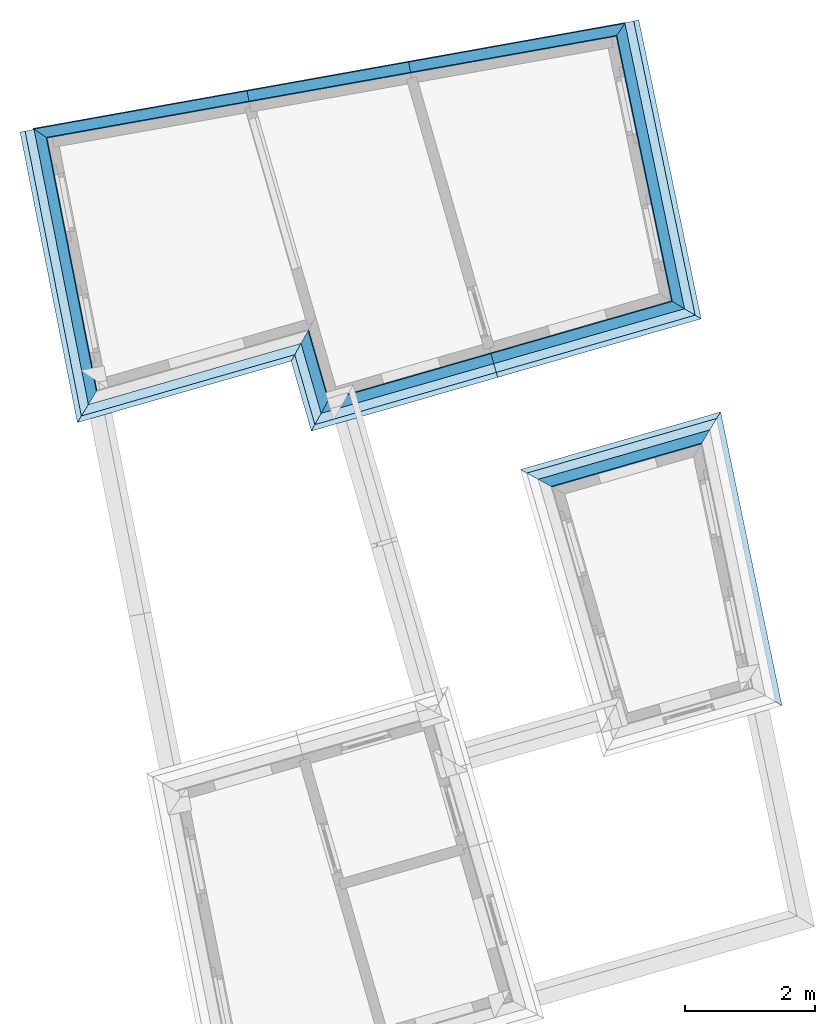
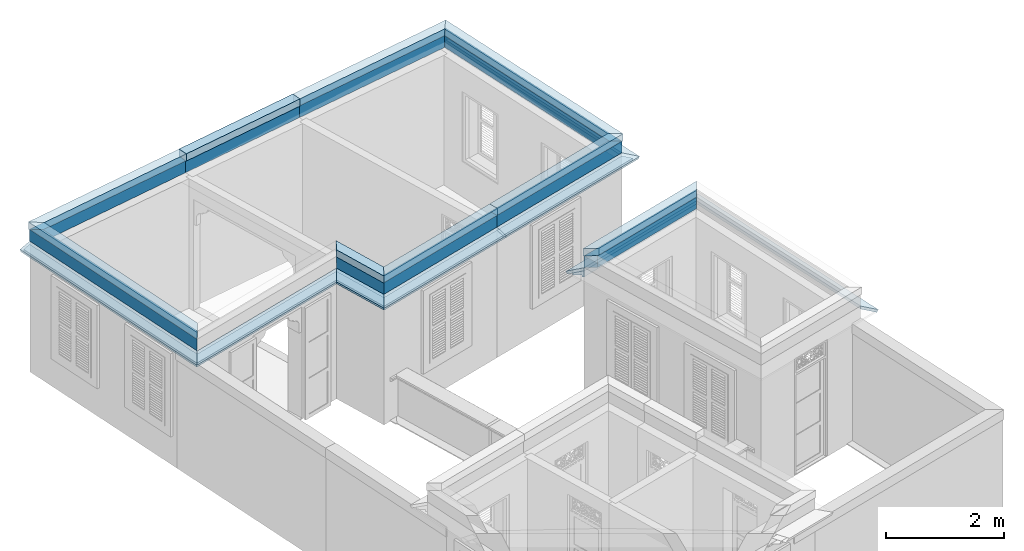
# One storey, part 21 of 22: 33 roofs.
"""IFC4 building model written with IfcOpenShell, lengths in metres."""

from ifc_helpers import new_model, si_unit, frame, origin_with_axes, place, context, subcontext, project, spatial, polyline, outline, extrude, clip, halfspace, material_profile, profile_set, profile_usage, type_object, element, save


model = new_model("IFC4")

# Units and contexts
model_context = context("Model", 3, world=origin_with_axes())
body_context = subcontext(model_context, "Body", "Model", "MODEL_VIEW")
ifc_project = project(units=[si_unit("PLANEANGLEUNIT", "RADIAN"), si_unit("MASSUNIT", "GRAM", prefix="KILO"), si_unit("FORCEUNIT", "NEWTON", prefix="KILO"), si_unit("LENGTHUNIT", "METRE"), si_unit("AREAUNIT", "SQUARE_METRE"), si_unit("VOLUMEUNIT", "CUBIC_METRE")], contexts=[model_context, model_context])

# Site, building, storey
site_placement = place(None, origin_with_axes())
site = spatial("IfcSite", under=ifc_project, at=site_placement, Name="Site plot-9", CompositionType="ELEMENT")
building_placement = place(None, origin_with_axes())
building = spatial("IfcBuilding", under=site, at=building_placement, Name="Building plot-9", CompositionType="ELEMENT")
storey_placement = place(None, frame((0.0, 0.0, 2.85), z_axis=(0.0, 0.0, 1.0), x_axis=(1.0, 0.0, 0.0)))
storey = spatial("IfcBuildingStorey", under=building, at=storey_placement, Name="plot-9 1", CompositionType="ELEMENT", Elevation=2.85)

# Roofs
ifc_material_profile_1 = material_profile(None, outline(polyline([(0.25, 0.0), (0.25, 0.245), (0.09, 0.245), (0.09, 0.0), (0.25, 0.0)])))
ifc_profile_set_1 = profile_set([ifc_material_profile_1])
ifc_profile_usage_1 = profile_usage(ifc_profile_set_1)
roof_type_1 = type_object("IfcRoofType", Name="roofline_0", PredefinedType="FREEFORM", material=ifc_profile_set_1)
roof_1_placement = place(storey_placement, frame((-16.2540454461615, 1.91313330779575, 2.7), z_axis=(0.961007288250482, 0.27652304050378, 0.0), x_axis=(-0.27652304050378, 0.961007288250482, 0.0)))
element("IfcRoof", 1, at=roof_1_placement, inside=storey, type_object=roof_type_1, material=ifc_profile_usage_1, Name="roofline_0", context=body_context, shape_type="Clipping", body=[
    clip(clip(extrude(outline(polyline([(0.25, 0.0), (0.25, 0.245), (0.09, 0.245), (0.09, 0.0), (0.25, 0.0)])), origin_with_axes(), (0.0, 0.0, 1.0), 4.22325596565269), halfspace(frame((0.0, 0.0, 3.22325596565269), z_axis=(0.732896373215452, 0.0, -0.680340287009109), x_axis=(0.0, 1.0, 0.0)), True)), halfspace(frame((0.0, 0.0, 1.0), z_axis=(-0.707106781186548, 0.0, -0.707106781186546), x_axis=(0.0, 1.0, 0.0)), False)),
])
ifc_material_profile_2 = material_profile(None, outline(polyline([(0.265, 0.245), (0.265, 0.395), (0.075, 0.395), (0.075, 0.245), (0.265, 0.245)])))
ifc_profile_set_2 = profile_set([ifc_material_profile_2])
ifc_profile_usage_2 = profile_usage(ifc_profile_set_2)
roof_type_2 = type_object("IfcRoofType", Name="roofline_1", PredefinedType="FREEFORM", material=ifc_profile_set_2)
roof_2_placement = place(storey_placement, frame((-16.2540454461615, 1.91313330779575, 2.7), z_axis=(0.961007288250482, 0.27652304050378, 0.0), x_axis=(-0.27652304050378, 0.961007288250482, 0.0)))
element("IfcRoof", 2, at=roof_2_placement, inside=storey, type_object=roof_type_2, material=ifc_profile_usage_2, Name="roofline_1", context=body_context, shape_type="Clipping", body=[
    clip(clip(extrude(outline(polyline([(0.265, 0.245), (0.265, 0.395), (0.075, 0.395), (0.075, 0.245), (0.265, 0.245)])), origin_with_axes(), (0.0, 0.0, 1.0), 4.22325596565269), halfspace(frame((0.0, 0.0, 3.22325596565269), z_axis=(0.732896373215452, 0.0, -0.680340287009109), x_axis=(0.0, 1.0, 0.0)), True)), halfspace(frame((0.0, 0.0, 1.0), z_axis=(-0.707106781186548, 0.0, -0.707106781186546), x_axis=(0.0, 1.0, 0.0)), False)),
])
ifc_material_profile_3 = material_profile(None, outline(polyline([(0.25, 0.0), (0.25, 0.245), (0.09, 0.245), (0.09, 0.0), (0.25, 0.0)])))
ifc_profile_set_3 = profile_set([ifc_material_profile_3])
ifc_profile_usage_3 = profile_usage(ifc_profile_set_3)
roof_type_3 = type_object("IfcRoofType", Name="roofline_0", PredefinedType="FREEFORM", material=ifc_profile_set_3)
roof_3_placement = place(storey_placement, frame((-18.4883951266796, 2.72259901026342, 2.7), z_axis=(-0.276523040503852, 0.961007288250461, 0.0), x_axis=(-0.961007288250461, -0.276523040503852, 0.0)))
element("IfcRoof", 3, at=roof_3_placement, inside=storey, type_object=roof_type_3, material=ifc_profile_usage_3, Name="roofline_0", context=body_context, shape_type="Clipping", body=[
    clip(clip(extrude(outline(polyline([(0.25, 0.0), (0.25, 0.245), (0.09, 0.245), (0.09, 0.0), (0.25, 0.0)])), origin_with_axes(), (0.0, 0.0, 1.0), 3.11750471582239), halfspace(frame((0.0, 0.0, 2.11750471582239), z_axis=(-0.707005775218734, 0.0, -0.707207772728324), x_axis=(0.0, 1.0, 0.0)), True)), halfspace(frame((0.0, 0.0, 1.0), z_axis=(-0.707106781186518, 0.0, -0.707106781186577), x_axis=(0.0, 1.0, 0.0)), False)),
])
ifc_profile_usage_4 = profile_usage(ifc_profile_set_3)
roof_4_placement = place(storey_placement, frame((-15.3930877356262, 4.65382662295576, 2.7), z_axis=(-0.961007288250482, -0.276523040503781, 0.0), x_axis=(0.276523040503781, -0.961007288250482, 0.0)))
element("IfcRoof", 4, at=roof_4_placement, inside=storey, type_object=roof_type_3, material=ifc_profile_usage_4, Name="roofline_0", context=body_context, shape_type="Clipping", body=[
    clip(clip(extrude(outline(polyline([(0.25, 0.0), (0.25, 0.245), (0.09, 0.245), (0.09, 0.0), (0.25, 0.0)])), origin_with_axes(), (0.0, 0.0, 1.0), 4.50864189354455), halfspace(frame((0.0, 0.0, 3.50864189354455), z_axis=(0.707106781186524, 0.0, -0.707106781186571), x_axis=(0.0, 1.0, 0.0)), True)), halfspace(frame((0.0, 0.0, 1.0), z_axis=(1.49307989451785e-15, 0.0, -1.0), x_axis=(0.0, 1.0, 0.0)), False)),
])
ifc_profile_usage_5 = profile_usage(ifc_profile_set_3)
roof_5_placement = place(storey_placement, frame((-12.6864685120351, 5.4326371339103, 2.7), z_axis=(-0.961007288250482, -0.276523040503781, 0.0), x_axis=(0.276523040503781, -0.961007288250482, 0.0)))
element("IfcRoof", 5, at=roof_5_placement, inside=storey, type_object=roof_type_3, material=ifc_profile_usage_5, Name="roofline_0", context=body_context, shape_type="Clipping", body=[
    clip(clip(extrude(outline(polyline([(0.25, 0.0), (0.25, 0.245), (0.09, 0.245), (0.09, 0.0), (0.25, 0.0)])), origin_with_axes(), (0.0, 0.0, 1.0), 4.81643985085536), halfspace(frame((0.0, 0.0, 3.81643985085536), z_axis=(2.15921370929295e-15, 0.0, -1.0), x_axis=(0.0, 1.0, 0.0)), True)), halfspace(frame((0.0, 0.0, 1.0), z_axis=(-0.680340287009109, 0.0, -0.732896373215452), x_axis=(0.0, 1.0, 0.0)), False)),
])
ifc_profile_usage_6 = profile_usage(ifc_profile_set_3)
roof_6_placement = place(storey_placement, frame((-14.6698786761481, 10.0529505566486, 2.7), z_axis=(0.204381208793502, -0.978891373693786, 0.0), x_axis=(0.978891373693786, 0.204381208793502, 0.0)))
element("IfcRoof", 6, at=roof_6_placement, inside=storey, type_object=roof_type_3, material=ifc_profile_usage_6, Name="roofline_0", context=body_context, shape_type="Clipping", body=[
    clip(clip(extrude(outline(polyline([(0.25, 0.0), (0.25, 0.245), (0.09, 0.245), (0.09, 0.0), (0.25, 0.0)])), origin_with_axes(), (0.0, 0.0, 1.0), 6.00243090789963), halfspace(frame((0.0, 0.0, 5.00243090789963), z_axis=(0.680340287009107, 0.0, -0.732896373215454), x_axis=(0.0, 1.0, 0.0)), True)), halfspace(frame((0.0, 0.0, 1.0), z_axis=(-0.696804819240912, 0.0, -0.717260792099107), x_axis=(0.0, 1.0, 0.0)), False)),
])
ifc_profile_usage_7 = profile_usage(ifc_profile_set_3)
roof_7_placement = place(storey_placement, frame((-18.5314328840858, 8.34719139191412, 2.7), z_axis=(0.984393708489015, 0.175980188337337, 0.0), x_axis=(-0.175980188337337, 0.984393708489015, 0.0)))
element("IfcRoof", 7, at=roof_7_placement, inside=storey, type_object=roof_type_3, material=ifc_profile_usage_7, Name="roofline_0", context=body_context, shape_type="Clipping", body=[
    clip(clip(extrude(outline(polyline([(0.25, 0.0), (0.25, 0.245), (0.09, 0.245), (0.09, 0.0), (0.25, 0.0)])), origin_with_axes(), (0.0, 0.0, 1.0), 5.13039557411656), halfspace(frame((0.0, 0.0, 4.13039557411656), z_axis=(0.696804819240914, 0.0, -0.717260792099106), x_axis=(0.0, 1.0, 0.0)), True)), halfspace(frame((0.0, 0.0, 1.0), z_axis=(-9.49410759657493e-16, 0.0, -1.0), x_axis=(0.0, 1.0, 0.0)), False)),
])
ifc_profile_usage_8 = profile_usage(ifc_profile_set_3)
roof_8_placement = place(storey_placement, frame((-21.0141518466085, 7.90335540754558, 2.7), z_axis=(0.984393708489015, 0.175980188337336, 0.0), x_axis=(-0.175980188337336, 0.984393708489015, 0.0)))
element("IfcRoof", 8, at=roof_8_placement, inside=storey, type_object=roof_type_3, material=ifc_profile_usage_8, Name="roofline_0", context=body_context, shape_type="Clipping", body=[
    clip(clip(extrude(outline(polyline([(0.25, 0.0), (0.25, 0.245), (0.09, 0.245), (0.09, 0.0), (0.25, 0.0)])), origin_with_axes(), (0.0, 0.0, 1.0), 4.52207926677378), halfspace(frame((0.0, 0.0, 3.52207926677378), z_axis=(-2.28167838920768e-15, 0.0, -1.0), x_axis=(0.0, 1.0, 0.0)), True)), halfspace(frame((0.0, 0.0, 1.0), z_axis=(1.27103528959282e-15, 0.0, -1.0), x_axis=(0.0, 1.0, 0.0)), False)),
])
ifc_profile_usage_9 = profile_usage(ifc_profile_set_3)
roof_9_placement = place(storey_placement, frame((-24.0355165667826, 7.36322565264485, 2.7), z_axis=(0.984393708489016, 0.17598018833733, 0.0), x_axis=(-0.17598018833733, 0.984393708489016, 0.0)))
element("IfcRoof", 9, at=roof_9_placement, inside=storey, type_object=roof_type_3, material=ifc_profile_usage_9, Name="roofline_0", context=body_context, shape_type="Clipping", body=[
    clip(clip(extrude(outline(polyline([(0.25, 0.0), (0.25, 0.245), (0.09, 0.245), (0.09, 0.0), (0.25, 0.0)])), origin_with_axes(), (0.0, 0.0, 1.0), 5.06926455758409), halfspace(frame((0.0, 0.0, 4.06926455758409), z_axis=(-4.05803522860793e-15, 0.0, -1.0), x_axis=(0.0, 1.0, 0.0)), True)), halfspace(frame((0.0, 0.0, 1.0), z_axis=(-0.713443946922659, 0.0, -0.7007123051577), x_axis=(0.0, 1.0, 0.0)), False)),
])
ifc_profile_usage_10 = profile_usage(ifc_profile_set_3)
roof_10_placement = place(storey_placement, frame((-22.1242361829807, 2.84404258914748, 2.7), z_axis=(-0.1936752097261, 0.981065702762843, 0.0), x_axis=(-0.981065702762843, -0.1936752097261, 0.0)))
element("IfcRoof", 10, at=roof_10_placement, inside=storey, type_object=roof_type_3, material=ifc_profile_usage_10, Name="roofline_0", context=body_context, shape_type="Clipping", body=[
    clip(clip(extrude(outline(polyline([(0.25, 0.0), (0.25, 0.245), (0.09, 0.245), (0.09, 0.0), (0.25, 0.0)])), origin_with_axes(), (0.0, 0.0, 1.0), 5.78577860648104), halfspace(frame((0.0, 0.0, 4.78577860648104), z_axis=(0.713443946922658, 0.0, -0.700712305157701), x_axis=(0.0, 1.0, 0.0)), True)), halfspace(frame((0.0, 0.0, 1.0), z_axis=(-0.736505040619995, 0.0, -0.676432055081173), x_axis=(0.0, 1.0, 0.0)), False)),
])
ifc_material_profile_4 = material_profile(None, outline(polyline([(0.265, 0.245), (0.265, 0.395), (0.075, 0.395), (0.075, 0.245), (0.265, 0.245)])))
ifc_profile_set_4 = profile_set([ifc_material_profile_4])
ifc_profile_usage_11 = profile_usage(ifc_profile_set_4)
roof_type_4 = type_object("IfcRoofType", Name="roofline_1", PredefinedType="FREEFORM", material=ifc_profile_set_4)
roof_11_placement = place(storey_placement, frame((-18.4883951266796, 2.72259901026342, 2.7), z_axis=(-0.276523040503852, 0.961007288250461, 0.0), x_axis=(-0.961007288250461, -0.276523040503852, 0.0)))
element("IfcRoof", 11, at=roof_11_placement, inside=storey, type_object=roof_type_4, material=ifc_profile_usage_11, Name="roofline_1", context=body_context, shape_type="Clipping", body=[
    clip(clip(extrude(outline(polyline([(0.265, 0.245), (0.265, 0.395), (0.075, 0.395), (0.075, 0.245), (0.265, 0.245)])), origin_with_axes(), (0.0, 0.0, 1.0), 3.11750471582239), halfspace(frame((0.0, 0.0, 2.11750471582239), z_axis=(-0.707005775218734, 0.0, -0.707207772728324), x_axis=(0.0, 1.0, 0.0)), True)), halfspace(frame((0.0, 0.0, 1.0), z_axis=(-0.707106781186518, 0.0, -0.707106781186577), x_axis=(0.0, 1.0, 0.0)), False)),
])
ifc_profile_usage_12 = profile_usage(ifc_profile_set_4)
roof_12_placement = place(storey_placement, frame((-15.3930877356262, 4.65382662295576, 2.7), z_axis=(-0.961007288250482, -0.276523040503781, 0.0), x_axis=(0.276523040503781, -0.961007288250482, 0.0)))
element("IfcRoof", 12, at=roof_12_placement, inside=storey, type_object=roof_type_4, material=ifc_profile_usage_12, Name="roofline_1", context=body_context, shape_type="Clipping", body=[
    clip(clip(extrude(outline(polyline([(0.265, 0.245), (0.265, 0.395), (0.075, 0.395), (0.075, 0.245), (0.265, 0.245)])), origin_with_axes(), (0.0, 0.0, 1.0), 4.50864189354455), halfspace(frame((0.0, 0.0, 3.50864189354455), z_axis=(0.707106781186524, 0.0, -0.707106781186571), x_axis=(0.0, 1.0, 0.0)), True)), halfspace(frame((0.0, 0.0, 1.0), z_axis=(1.49307989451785e-15, 0.0, -1.0), x_axis=(0.0, 1.0, 0.0)), False)),
])
ifc_profile_usage_13 = profile_usage(ifc_profile_set_4)
roof_13_placement = place(storey_placement, frame((-12.6864685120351, 5.4326371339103, 2.7), z_axis=(-0.961007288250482, -0.276523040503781, 0.0), x_axis=(0.276523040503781, -0.961007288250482, 0.0)))
element("IfcRoof", 13, at=roof_13_placement, inside=storey, type_object=roof_type_4, material=ifc_profile_usage_13, Name="roofline_1", context=body_context, shape_type="Clipping", body=[
    clip(clip(extrude(outline(polyline([(0.265, 0.245), (0.265, 0.395), (0.075, 0.395), (0.075, 0.245), (0.265, 0.245)])), origin_with_axes(), (0.0, 0.0, 1.0), 4.81643985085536), halfspace(frame((0.0, 0.0, 3.81643985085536), z_axis=(2.15921370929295e-15, 0.0, -1.0), x_axis=(0.0, 1.0, 0.0)), True)), halfspace(frame((0.0, 0.0, 1.0), z_axis=(-0.680340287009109, 0.0, -0.732896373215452), x_axis=(0.0, 1.0, 0.0)), False)),
])
ifc_profile_usage_14 = profile_usage(ifc_profile_set_4)
roof_14_placement = place(storey_placement, frame((-14.6698786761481, 10.0529505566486, 2.7), z_axis=(0.204381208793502, -0.978891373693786, 0.0), x_axis=(0.978891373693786, 0.204381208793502, 0.0)))
element("IfcRoof", 14, at=roof_14_placement, inside=storey, type_object=roof_type_4, material=ifc_profile_usage_14, Name="roofline_1", context=body_context, shape_type="Clipping", body=[
    clip(clip(extrude(outline(polyline([(0.265, 0.245), (0.265, 0.395), (0.075, 0.395), (0.075, 0.245), (0.265, 0.245)])), origin_with_axes(), (0.0, 0.0, 1.0), 6.00243090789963), halfspace(frame((0.0, 0.0, 5.00243090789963), z_axis=(0.680340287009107, 0.0, -0.732896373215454), x_axis=(0.0, 1.0, 0.0)), True)), halfspace(frame((0.0, 0.0, 1.0), z_axis=(-0.696804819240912, 0.0, -0.717260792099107), x_axis=(0.0, 1.0, 0.0)), False)),
])
ifc_profile_usage_15 = profile_usage(ifc_profile_set_4)
roof_15_placement = place(storey_placement, frame((-18.5314328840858, 8.34719139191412, 2.7), z_axis=(0.984393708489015, 0.175980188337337, 0.0), x_axis=(-0.175980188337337, 0.984393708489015, 0.0)))
element("IfcRoof", 15, at=roof_15_placement, inside=storey, type_object=roof_type_4, material=ifc_profile_usage_15, Name="roofline_1", context=body_context, shape_type="Clipping", body=[
    clip(clip(extrude(outline(polyline([(0.265, 0.245), (0.265, 0.395), (0.075, 0.395), (0.075, 0.245), (0.265, 0.245)])), origin_with_axes(), (0.0, 0.0, 1.0), 5.13039557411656), halfspace(frame((0.0, 0.0, 4.13039557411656), z_axis=(0.696804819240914, 0.0, -0.717260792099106), x_axis=(0.0, 1.0, 0.0)), True)), halfspace(frame((0.0, 0.0, 1.0), z_axis=(-9.49410759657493e-16, 0.0, -1.0), x_axis=(0.0, 1.0, 0.0)), False)),
])
ifc_profile_usage_16 = profile_usage(ifc_profile_set_4)
roof_16_placement = place(storey_placement, frame((-21.0141518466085, 7.90335540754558, 2.7), z_axis=(0.984393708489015, 0.175980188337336, 0.0), x_axis=(-0.175980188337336, 0.984393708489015, 0.0)))
element("IfcRoof", 16, at=roof_16_placement, inside=storey, type_object=roof_type_4, material=ifc_profile_usage_16, Name="roofline_1", context=body_context, shape_type="Clipping", body=[
    clip(clip(extrude(outline(polyline([(0.265, 0.245), (0.265, 0.395), (0.075, 0.395), (0.075, 0.245), (0.265, 0.245)])), origin_with_axes(), (0.0, 0.0, 1.0), 4.52207926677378), halfspace(frame((0.0, 0.0, 3.52207926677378), z_axis=(-2.28167838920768e-15, 0.0, -1.0), x_axis=(0.0, 1.0, 0.0)), True)), halfspace(frame((0.0, 0.0, 1.0), z_axis=(1.27103528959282e-15, 0.0, -1.0), x_axis=(0.0, 1.0, 0.0)), False)),
])
ifc_profile_usage_17 = profile_usage(ifc_profile_set_4)
roof_17_placement = place(storey_placement, frame((-24.0355165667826, 7.36322565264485, 2.7), z_axis=(0.984393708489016, 0.17598018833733, 0.0), x_axis=(-0.17598018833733, 0.984393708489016, 0.0)))
element("IfcRoof", 17, at=roof_17_placement, inside=storey, type_object=roof_type_4, material=ifc_profile_usage_17, Name="roofline_1", context=body_context, shape_type="Clipping", body=[
    clip(clip(extrude(outline(polyline([(0.265, 0.245), (0.265, 0.395), (0.075, 0.395), (0.075, 0.245), (0.265, 0.245)])), origin_with_axes(), (0.0, 0.0, 1.0), 5.06926455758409), halfspace(frame((0.0, 0.0, 4.06926455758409), z_axis=(-4.05803522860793e-15, 0.0, -1.0), x_axis=(0.0, 1.0, 0.0)), True)), halfspace(frame((0.0, 0.0, 1.0), z_axis=(-0.713443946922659, 0.0, -0.7007123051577), x_axis=(0.0, 1.0, 0.0)), False)),
])
ifc_profile_usage_18 = profile_usage(ifc_profile_set_4)
roof_18_placement = place(storey_placement, frame((-22.1242361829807, 2.84404258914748, 2.7), z_axis=(-0.1936752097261, 0.981065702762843, 0.0), x_axis=(-0.981065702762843, -0.1936752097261, 0.0)))
element("IfcRoof", 18, at=roof_18_placement, inside=storey, type_object=roof_type_4, material=ifc_profile_usage_18, Name="roofline_1", context=body_context, shape_type="Clipping", body=[
    clip(clip(extrude(outline(polyline([(0.265, 0.245), (0.265, 0.395), (0.075, 0.395), (0.075, 0.245), (0.265, 0.245)])), origin_with_axes(), (0.0, 0.0, 1.0), 5.78577860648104), halfspace(frame((0.0, 0.0, 4.78577860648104), z_axis=(0.713443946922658, 0.0, -0.700712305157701), x_axis=(0.0, 1.0, 0.0)), True)), halfspace(frame((0.0, 0.0, 1.0), z_axis=(-0.736505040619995, 0.0, -0.676432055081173), x_axis=(0.0, 1.0, 0.0)), False)),
])
ifc_material_profile_5 = material_profile(None, outline(polyline([(0.25, -0.19), (0.275, -0.19), (0.275, -0.15), (0.39, -0.15), (0.39, -0.107509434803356), (0.25, -0.0629639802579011), (0.25, -0.19)])))
ifc_profile_set_5 = profile_set([ifc_material_profile_5])
ifc_profile_usage_19 = profile_usage(ifc_profile_set_5)
roof_type_5 = type_object("IfcRoofType", Name="eaves_0", PredefinedType="FREEFORM", material=ifc_profile_set_5)
roof_19_placement = place(storey_placement, frame((-16.2540454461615, 1.91313330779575, 2.7), z_axis=(0.961007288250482, 0.27652304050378, 0.0), x_axis=(-0.27652304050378, 0.961007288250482, 0.0)))
element("IfcRoof", 19, at=roof_19_placement, inside=storey, type_object=roof_type_5, material=ifc_profile_usage_19, Name="eaves_0", context=body_context, shape_type="Clipping", body=[
    clip(clip(extrude(outline(polyline([(0.25, -0.19), (0.275, -0.19), (0.275, -0.15), (0.39, -0.15), (0.39, -0.107509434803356), (0.25, -0.0629639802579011), (0.25, -0.19)])), origin_with_axes(), (0.0, 0.0, 1.0), 4.22325596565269), halfspace(frame((0.0, 0.0, 3.22325596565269), z_axis=(0.732896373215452, 0.0, -0.680340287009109), x_axis=(0.0, 1.0, 0.0)), True)), halfspace(frame((0.0, 0.0, 1.0), z_axis=(-0.707106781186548, 0.0, -0.707106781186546), x_axis=(0.0, 1.0, 0.0)), False)),
])
ifc_material_profile_6 = material_profile(None, outline(polyline([(0.25, -0.0629639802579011), (0.451807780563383, -0.127175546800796), (0.47, -0.07), (0.25, 0.0), (0.25, -0.0629639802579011)])))
ifc_profile_set_6 = profile_set([ifc_material_profile_6])
ifc_profile_usage_20 = profile_usage(ifc_profile_set_6)
roof_type_6 = type_object("IfcRoofType", Name="eaves_1", PredefinedType="FREEFORM", material=ifc_profile_set_6)
roof_20_placement = place(storey_placement, frame((-16.2540454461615, 1.91313330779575, 2.7), z_axis=(0.961007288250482, 0.27652304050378, 0.0), x_axis=(-0.27652304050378, 0.961007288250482, 0.0)))
element("IfcRoof", 20, at=roof_20_placement, inside=storey, type_object=roof_type_6, material=ifc_profile_usage_20, Name="eaves_1", context=body_context, shape_type="Clipping", body=[
    clip(clip(extrude(outline(polyline([(0.25, -0.0629639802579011), (0.451807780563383, -0.127175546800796), (0.47, -0.07), (0.25, 0.0), (0.25, -0.0629639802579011)])), origin_with_axes(), (0.0, 0.0, 1.0), 4.22325596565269), halfspace(frame((0.0, 0.0, 3.22325596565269), z_axis=(0.732896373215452, 0.0, -0.680340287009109), x_axis=(0.0, 1.0, 0.0)), True)), halfspace(frame((0.0, 0.0, 1.0), z_axis=(-0.707106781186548, 0.0, -0.707106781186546), x_axis=(0.0, 1.0, 0.0)), False)),
])
ifc_profile_usage_21 = profile_usage(ifc_profile_set_6)
roof_21_placement = place(storey_placement, frame((-13.3608541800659, 3.78332922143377, 2.7), z_axis=(0.204381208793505, -0.978891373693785, 0.0), x_axis=(0.978891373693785, 0.204381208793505, 0.0)))
element("IfcRoof", 21, at=roof_21_placement, inside=storey, type_object=roof_type_6, material=ifc_profile_usage_21, Name="eaves_1", context=body_context, shape_type="Clipping", body=[
    clip(clip(extrude(outline(polyline([(0.25, -0.0629639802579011), (0.451807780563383, -0.127175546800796), (0.47, -0.07), (0.25, 0.0), (0.25, -0.0629639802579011)])), origin_with_axes(), (0.0, 0.0, 1.0), 5.66719937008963), halfspace(frame((0.0, 0.0, 4.66719937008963), z_axis=(0.680340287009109, 0.0, -0.732896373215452), x_axis=(0.0, 1.0, 0.0)), True)), halfspace(frame((0.0, 0.0, 1.0), z_axis=(-0.732896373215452, 0.0, -0.680340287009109), x_axis=(0.0, 1.0, 0.0)), False)),
])
ifc_material_profile_7 = material_profile(None, outline(polyline([(0.25, -0.19), (0.275, -0.19), (0.275, -0.15), (0.39, -0.15), (0.39, -0.107509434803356), (0.25, -0.0629639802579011), (0.25, -0.19)])))
ifc_profile_set_7 = profile_set([ifc_material_profile_7])
ifc_profile_usage_22 = profile_usage(ifc_profile_set_7)
roof_type_7 = type_object("IfcRoofType", Name="eaves_0", PredefinedType="FREEFORM", material=ifc_profile_set_7)
roof_22_placement = place(storey_placement, frame((-22.1242361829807, 2.84404258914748, 2.7), z_axis=(-0.1936752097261, 0.981065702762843, 0.0), x_axis=(-0.981065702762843, -0.1936752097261, 0.0)))
element("IfcRoof", 22, at=roof_22_placement, inside=storey, type_object=roof_type_7, material=ifc_profile_usage_22, Name="eaves_0", context=body_context, shape_type="Clipping", body=[
    clip(clip(extrude(outline(polyline([(0.25, -0.19), (0.275, -0.19), (0.275, -0.15), (0.39, -0.15), (0.39, -0.107509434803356), (0.25, -0.0629639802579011), (0.25, -0.19)])), origin_with_axes(), (0.0, 0.0, 1.0), 6.03577860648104), halfspace(frame((0.0, 0.0, 5.03577860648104), z_axis=(1.60812264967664e-16, 0.0, -1.0), x_axis=(0.0, 1.0, 0.0)), True)), halfspace(frame((0.0, 0.0, 1.0), z_axis=(-0.736505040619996, 0.0, -0.676432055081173), x_axis=(0.0, 1.0, 0.0)), False)),
])
ifc_profile_usage_23 = profile_usage(ifc_profile_set_7)
roof_23_placement = place(storey_placement, frame((-18.1128477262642, 5.03378497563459, 2.7), z_axis=(-0.96108624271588, -0.276248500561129, 0.0), x_axis=(0.276248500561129, -0.96108624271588, 0.0)))
element("IfcRoof", 23, at=roof_23_placement, inside=storey, type_object=roof_type_7, material=ifc_profile_usage_23, Name="eaves_0", context=body_context, shape_type="Clipping", body=[
    clip(clip(extrude(outline(polyline([(0.25, -0.19), (0.275, -0.19), (0.275, -0.15), (0.39, -0.15), (0.39, -0.107509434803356), (0.25, -0.0629639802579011), (0.25, -0.19)])), origin_with_axes(), (0.0, 0.0, 1.0), 5.37532396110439), halfspace(frame((0.0, 0.0, 4.37532396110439), z_axis=(0.736505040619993, 0.0, -0.676432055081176), x_axis=(0.0, 1.0, 0.0)), True)), halfspace(frame((0.0, 0.0, 1.0), z_axis=(0.707005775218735, 0.0, -0.707207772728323), x_axis=(0.0, 1.0, 0.0)), False)),
])
ifc_profile_usage_24 = profile_usage(ifc_profile_set_7)
roof_24_placement = place(storey_placement, frame((-18.4883951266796, 2.72259901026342, 2.7), z_axis=(-0.276523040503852, 0.961007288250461, 0.0), x_axis=(-0.961007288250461, -0.276523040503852, 0.0)))
element("IfcRoof", 24, at=roof_24_placement, inside=storey, type_object=roof_type_7, material=ifc_profile_usage_24, Name="eaves_0", context=body_context, shape_type="Clipping", body=[
    clip(clip(extrude(outline(polyline([(0.25, -0.19), (0.275, -0.19), (0.275, -0.15), (0.39, -0.15), (0.39, -0.107509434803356), (0.25, -0.0629639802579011), (0.25, -0.19)])), origin_with_axes(), (0.0, 0.0, 1.0), 3.11750471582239), halfspace(frame((0.0, 0.0, 2.11750471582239), z_axis=(-0.707005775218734, 0.0, -0.707207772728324), x_axis=(0.0, 1.0, 0.0)), True)), halfspace(frame((0.0, 0.0, 1.0), z_axis=(-0.707106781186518, 0.0, -0.707106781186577), x_axis=(0.0, 1.0, 0.0)), False)),
])
ifc_profile_usage_25 = profile_usage(ifc_profile_set_7)
roof_25_placement = place(storey_placement, frame((-15.3930877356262, 4.65382662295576, 2.7), z_axis=(-0.961007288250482, -0.276523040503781, 0.0), x_axis=(0.276523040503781, -0.961007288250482, 0.0)))
element("IfcRoof", 25, at=roof_25_placement, inside=storey, type_object=roof_type_7, material=ifc_profile_usage_25, Name="eaves_0", context=body_context, shape_type="Clipping", body=[
    clip(clip(extrude(outline(polyline([(0.25, -0.19), (0.275, -0.19), (0.275, -0.15), (0.39, -0.15), (0.39, -0.107509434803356), (0.25, -0.0629639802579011), (0.25, -0.19)])), origin_with_axes(), (0.0, 0.0, 1.0), 4.50864189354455), halfspace(frame((0.0, 0.0, 3.50864189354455), z_axis=(0.707106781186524, 0.0, -0.707106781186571), x_axis=(0.0, 1.0, 0.0)), True)), halfspace(frame((0.0, 0.0, 1.0), z_axis=(1.49307989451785e-15, 0.0, -1.0), x_axis=(0.0, 1.0, 0.0)), False)),
])
ifc_profile_usage_26 = profile_usage(ifc_profile_set_7)
roof_26_placement = place(storey_placement, frame((-12.6864685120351, 5.4326371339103, 2.7), z_axis=(-0.961007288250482, -0.276523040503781, 0.0), x_axis=(0.276523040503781, -0.961007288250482, 0.0)))
element("IfcRoof", 26, at=roof_26_placement, inside=storey, type_object=roof_type_7, material=ifc_profile_usage_26, Name="eaves_0", context=body_context, shape_type="Clipping", body=[
    clip(clip(extrude(outline(polyline([(0.25, -0.19), (0.275, -0.19), (0.275, -0.15), (0.39, -0.15), (0.39, -0.107509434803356), (0.25, -0.0629639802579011), (0.25, -0.19)])), origin_with_axes(), (0.0, 0.0, 1.0), 4.81643985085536), halfspace(frame((0.0, 0.0, 3.81643985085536), z_axis=(2.15921370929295e-15, 0.0, -1.0), x_axis=(0.0, 1.0, 0.0)), True)), halfspace(frame((0.0, 0.0, 1.0), z_axis=(-0.680340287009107, 0.0, -0.732896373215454), x_axis=(0.0, 1.0, 0.0)), False)),
])
ifc_profile_usage_27 = profile_usage(ifc_profile_set_7)
roof_27_placement = place(storey_placement, frame((-14.7209739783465, 10.2976734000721, 2.7), z_axis=(0.204381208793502, -0.978891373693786, 0.0), x_axis=(0.978891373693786, 0.204381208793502, 0.0)))
element("IfcRoof", 27, at=roof_27_placement, inside=storey, type_object=roof_type_7, material=ifc_profile_usage_27, Name="eaves_0", context=body_context, shape_type="Clipping", body=[
    clip(clip(extrude(outline(polyline([(0.25, -0.19), (0.275, -0.19), (0.275, -0.15), (0.39, -0.15), (0.39, -0.107509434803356), (0.25, -0.0629639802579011), (0.25, -0.19)])), origin_with_axes(), (0.0, 0.0, 1.0), 6.25243090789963), halfspace(frame((0.0, 0.0, 5.25243090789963), z_axis=(0.680340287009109, 0.0, -0.732896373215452), x_axis=(0.0, 1.0, 0.0)), True)), halfspace(frame((0.0, 0.0, 1.0), z_axis=(1.04899068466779e-15, 0.0, -1.0), x_axis=(0.0, 1.0, 0.0)), False)),
])
ifc_material_profile_8 = material_profile(None, outline(polyline([(0.25, -0.0629639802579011), (0.451807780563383, -0.127175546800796), (0.47, -0.07), (0.25, 0.0), (0.25, -0.0629639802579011)])))
ifc_profile_set_8 = profile_set([ifc_material_profile_8])
ifc_profile_usage_28 = profile_usage(ifc_profile_set_8)
roof_type_8 = type_object("IfcRoofType", Name="eaves_1", PredefinedType="FREEFORM", material=ifc_profile_set_8)
roof_28_placement = place(storey_placement, frame((-22.1242361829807, 2.84404258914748, 2.7), z_axis=(-0.1936752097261, 0.981065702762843, 0.0), x_axis=(-0.981065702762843, -0.1936752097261, 0.0)))
element("IfcRoof", 28, at=roof_28_placement, inside=storey, type_object=roof_type_8, material=ifc_profile_usage_28, Name="eaves_1", context=body_context, shape_type="Clipping", body=[
    clip(clip(extrude(outline(polyline([(0.25, -0.0629639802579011), (0.451807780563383, -0.127175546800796), (0.47, -0.07), (0.25, 0.0), (0.25, -0.0629639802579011)])), origin_with_axes(), (0.0, 0.0, 1.0), 6.03577860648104), halfspace(frame((0.0, 0.0, 5.03577860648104), z_axis=(1.60812264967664e-16, 0.0, -1.0), x_axis=(0.0, 1.0, 0.0)), True)), halfspace(frame((0.0, 0.0, 1.0), z_axis=(-0.736505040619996, 0.0, -0.676432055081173), x_axis=(0.0, 1.0, 0.0)), False)),
])
ifc_profile_usage_29 = profile_usage(ifc_profile_set_8)
roof_29_placement = place(storey_placement, frame((-18.1128477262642, 5.03378497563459, 2.7), z_axis=(-0.96108624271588, -0.276248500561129, 0.0), x_axis=(0.276248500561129, -0.96108624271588, 0.0)))
element("IfcRoof", 29, at=roof_29_placement, inside=storey, type_object=roof_type_8, material=ifc_profile_usage_29, Name="eaves_1", context=body_context, shape_type="Clipping", body=[
    clip(clip(extrude(outline(polyline([(0.25, -0.0629639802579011), (0.451807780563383, -0.127175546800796), (0.47, -0.07), (0.25, 0.0), (0.25, -0.0629639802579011)])), origin_with_axes(), (0.0, 0.0, 1.0), 5.37532396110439), halfspace(frame((0.0, 0.0, 4.37532396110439), z_axis=(0.736505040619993, 0.0, -0.676432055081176), x_axis=(0.0, 1.0, 0.0)), True)), halfspace(frame((0.0, 0.0, 1.0), z_axis=(0.707005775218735, 0.0, -0.707207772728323), x_axis=(0.0, 1.0, 0.0)), False)),
])
ifc_profile_usage_30 = profile_usage(ifc_profile_set_8)
roof_30_placement = place(storey_placement, frame((-18.4883951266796, 2.72259901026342, 2.7), z_axis=(-0.276523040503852, 0.961007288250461, 0.0), x_axis=(-0.961007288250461, -0.276523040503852, 0.0)))
element("IfcRoof", 30, at=roof_30_placement, inside=storey, type_object=roof_type_8, material=ifc_profile_usage_30, Name="eaves_1", context=body_context, shape_type="Clipping", body=[
    clip(clip(extrude(outline(polyline([(0.25, -0.0629639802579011), (0.451807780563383, -0.127175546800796), (0.47, -0.07), (0.25, 0.0), (0.25, -0.0629639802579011)])), origin_with_axes(), (0.0, 0.0, 1.0), 3.11750471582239), halfspace(frame((0.0, 0.0, 2.11750471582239), z_axis=(-0.707005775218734, 0.0, -0.707207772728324), x_axis=(0.0, 1.0, 0.0)), True)), halfspace(frame((0.0, 0.0, 1.0), z_axis=(-0.707106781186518, 0.0, -0.707106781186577), x_axis=(0.0, 1.0, 0.0)), False)),
])
ifc_profile_usage_31 = profile_usage(ifc_profile_set_8)
roof_31_placement = place(storey_placement, frame((-15.3930877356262, 4.65382662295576, 2.7), z_axis=(-0.961007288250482, -0.276523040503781, 0.0), x_axis=(0.276523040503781, -0.961007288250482, 0.0)))
element("IfcRoof", 31, at=roof_31_placement, inside=storey, type_object=roof_type_8, material=ifc_profile_usage_31, Name="eaves_1", context=body_context, shape_type="Clipping", body=[
    clip(clip(extrude(outline(polyline([(0.25, -0.0629639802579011), (0.451807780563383, -0.127175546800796), (0.47, -0.07), (0.25, 0.0), (0.25, -0.0629639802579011)])), origin_with_axes(), (0.0, 0.0, 1.0), 4.50864189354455), halfspace(frame((0.0, 0.0, 3.50864189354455), z_axis=(0.707106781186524, 0.0, -0.707106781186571), x_axis=(0.0, 1.0, 0.0)), True)), halfspace(frame((0.0, 0.0, 1.0), z_axis=(1.49307989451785e-15, 0.0, -1.0), x_axis=(0.0, 1.0, 0.0)), False)),
])
ifc_profile_usage_32 = profile_usage(ifc_profile_set_8)
roof_32_placement = place(storey_placement, frame((-12.6864685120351, 5.4326371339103, 2.7), z_axis=(-0.961007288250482, -0.276523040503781, 0.0), x_axis=(0.276523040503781, -0.961007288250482, 0.0)))
element("IfcRoof", 32, at=roof_32_placement, inside=storey, type_object=roof_type_8, material=ifc_profile_usage_32, Name="eaves_1", context=body_context, shape_type="Clipping", body=[
    clip(clip(extrude(outline(polyline([(0.25, -0.0629639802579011), (0.451807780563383, -0.127175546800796), (0.47, -0.07), (0.25, 0.0), (0.25, -0.0629639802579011)])), origin_with_axes(), (0.0, 0.0, 1.0), 4.81643985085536), halfspace(frame((0.0, 0.0, 3.81643985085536), z_axis=(2.15921370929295e-15, 0.0, -1.0), x_axis=(0.0, 1.0, 0.0)), True)), halfspace(frame((0.0, 0.0, 1.0), z_axis=(-0.680340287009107, 0.0, -0.732896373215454), x_axis=(0.0, 1.0, 0.0)), False)),
])
ifc_profile_usage_33 = profile_usage(ifc_profile_set_8)
roof_33_placement = place(storey_placement, frame((-14.7209739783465, 10.2976734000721, 2.7), z_axis=(0.204381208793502, -0.978891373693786, 0.0), x_axis=(0.978891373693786, 0.204381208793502, 0.0)))
element("IfcRoof", 33, at=roof_33_placement, inside=storey, type_object=roof_type_8, material=ifc_profile_usage_33, Name="eaves_1", context=body_context, shape_type="Clipping", body=[
    clip(clip(extrude(outline(polyline([(0.25, -0.0629639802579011), (0.451807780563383, -0.127175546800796), (0.47, -0.07), (0.25, 0.0), (0.25, -0.0629639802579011)])), origin_with_axes(), (0.0, 0.0, 1.0), 6.25243090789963), halfspace(frame((0.0, 0.0, 5.25243090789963), z_axis=(0.680340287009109, 0.0, -0.732896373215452), x_axis=(0.0, 1.0, 0.0)), True)), halfspace(frame((0.0, 0.0, 1.0), z_axis=(1.04899068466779e-15, 0.0, -1.0), x_axis=(0.0, 1.0, 0.0)), False)),
])

save(model, "model.ifc")
